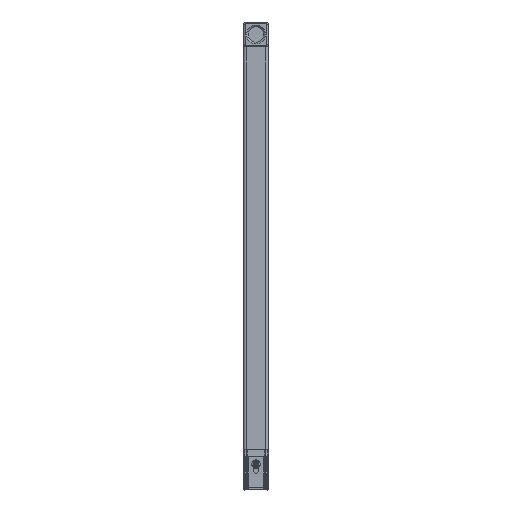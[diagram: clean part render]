
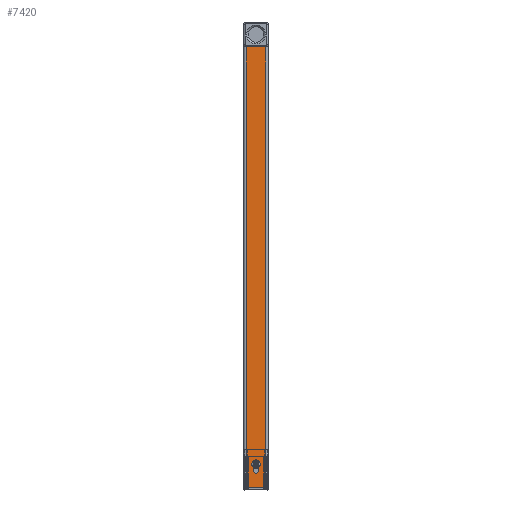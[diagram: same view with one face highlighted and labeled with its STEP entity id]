
A CAD part, top view. The second image highlights one B-rep face of the part: STEP entity #7420.
In plain terms, the highlighted planar face has unit normal (0, 0, 1).
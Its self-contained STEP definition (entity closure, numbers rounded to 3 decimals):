
#569=CARTESIAN_POINT('',(-12.,455.0,1815.0));
#570=VERTEX_POINT('',#569);
#577=CARTESIAN_POINT('',(12.,455.0,1815.0));
#578=VERTEX_POINT('',#577);
#579=CARTESIAN_POINT('',(12.,455.0,1815.0));
#580=DIRECTION('',(-1.0,0.0,0.0));
#581=VECTOR('',#580,24.);
#582=LINE('',#579,#581);
#583=EDGE_CURVE('',#578,#570,#582,.T.);
#1302=CARTESIAN_POINT('',(-3.,-47.,1815.0));
#1303=VERTEX_POINT('',#1302);
#1310=CARTESIAN_POINT('',(-3.0,-55.,1815.0));
#1311=VERTEX_POINT('',#1310);
#1312=CARTESIAN_POINT('',(-3.0,-55.,1815.0));
#1313=DIRECTION('',(0.0,1.0,0.0));
#1314=VECTOR('',#1313,8.0);
#1315=LINE('',#1312,#1314);
#1316=EDGE_CURVE('',#1311,#1303,#1315,.T.);
#1342=CARTESIAN_POINT('',(3.0,-55.,1815.0));
#1343=VERTEX_POINT('',#1342);
#1344=CARTESIAN_POINT('',(0.0,-55.,1815.0));
#1345=DIRECTION('',(0.0,0.0,-1.0));
#1346=DIRECTION('',(-1.0,0.0,0.0));
#1347=AXIS2_PLACEMENT_3D('',#1344,#1345,#1346);
#1348=CIRCLE('',#1347,3.0);
#1349=EDGE_CURVE('',#1343,#1311,#1348,.T.);
#1374=CARTESIAN_POINT('',(3.0,-47.,1815.0));
#1375=VERTEX_POINT('',#1374);
#1376=CARTESIAN_POINT('',(3.0,-47.,1815.0));
#1377=DIRECTION('',(0.0,-1.0,0.0));
#1378=VECTOR('',#1377,8.);
#1379=LINE('',#1376,#1378);
#1380=EDGE_CURVE('',#1375,#1343,#1379,.T.);
#1404=CARTESIAN_POINT('',(0.0,-47.,1815.0));
#1405=DIRECTION('',(0.0,0.0,-1.0));
#1406=DIRECTION('',(1.0,0.0,0.0));
#1407=AXIS2_PLACEMENT_3D('',#1404,#1405,#1406);
#1408=CIRCLE('',#1407,3.);
#1409=EDGE_CURVE('',#1303,#1375,#1408,.T.);
#1920=CARTESIAN_POINT('',(12.,-75.0,1815.0));
#1921=VERTEX_POINT('',#1920);
#1929=CARTESIAN_POINT('',(-12.,-75.0,1815.0));
#1930=VERTEX_POINT('',#1929);
#1931=CARTESIAN_POINT('',(-12.,-75.0,1815.0));
#1932=DIRECTION('',(1.0,0.0,0.0));
#1933=VECTOR('',#1932,24.);
#1934=LINE('',#1931,#1933);
#1935=EDGE_CURVE('',#1930,#1921,#1934,.T.);
#7382=CARTESIAN_POINT('',(12.,-75.0,1815.0));
#7383=DIRECTION('',(0.0,1.0,0.0));
#7384=VECTOR('',#7383,530.0);
#7385=LINE('',#7382,#7384);
#7386=EDGE_CURVE('',#1921,#578,#7385,.T.);
#7398=CARTESIAN_POINT('',(12.,-75.0,1815.0));
#7399=DIRECTION('',(0.0,0.0,1.0));
#7400=DIRECTION('',(1.0,0.0,0.0));
#7401=AXIS2_PLACEMENT_3D('',#7398,#7399,#7400);
#7402=PLANE('',#7401);
#7403=ORIENTED_EDGE('',*,*,#583,.T.);
#7404=CARTESIAN_POINT('',(-12.,-75.0,1815.0));
#7405=DIRECTION('',(0.0,1.0,0.0));
#7406=VECTOR('',#7405,530.0);
#7407=LINE('',#7404,#7406);
#7408=EDGE_CURVE('',#1930,#570,#7407,.T.);
#7409=ORIENTED_EDGE('',*,*,#7408,.F.);
#7410=ORIENTED_EDGE('',*,*,#1935,.T.);
#7411=ORIENTED_EDGE('',*,*,#7386,.T.);
#7412=EDGE_LOOP('',(#7403,#7409,#7410,#7411));
#7413=FACE_OUTER_BOUND('',#7412,.T.);
#7414=ORIENTED_EDGE('',*,*,#1380,.T.);
#7415=ORIENTED_EDGE('',*,*,#1349,.T.);
#7416=ORIENTED_EDGE('',*,*,#1316,.T.);
#7417=ORIENTED_EDGE('',*,*,#1409,.T.);
#7418=EDGE_LOOP('',(#7414,#7415,#7416,#7417));
#7419=FACE_BOUND('',#7418,.T.);
#7420=ADVANCED_FACE('',(#7413,#7419),#7402,.T.);
